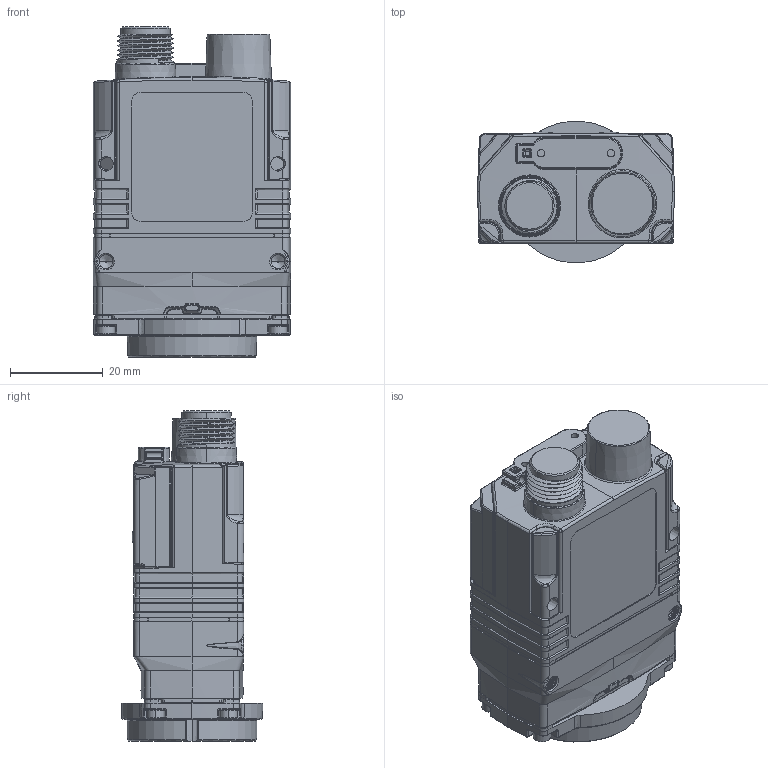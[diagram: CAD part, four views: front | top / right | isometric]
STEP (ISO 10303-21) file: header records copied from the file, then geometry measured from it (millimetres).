
FILE_DESCRIPTION (( 'STEP AP203' ), '1' );
FILE_NAME ('DM280_with_Cmount_adapter_straight.STEP', '2022-05-19T16:48:35', ( '' ), ( '' ), 'SwSTEP 2.0', 'SolidWorks 2021', '' );
FILE_SCHEMA (( 'CONFIG_CONTROL_DESIGN' ));
Length unit declared in the file: millimetre
Products named in the file (1): DM280_with_Cmount_adapter_straight
Bounding box: 42.4 x 30.4 x 71.07 mm (x, y, z)
Volume: 58079.6 mm3; surface area: 19126.4 mm2
Topology: 4 solids, 31 shells, 3314 faces, 8294 edges, 5110 vertices
Faces by surface type: plane 1048, cylinder 980, bspline 646, cone 356, torus 220, sphere 64
Entity records: 129321 total; most frequent: CARTESIAN_POINT 57550, ORIENTED_EDGE 16480, DIRECTION 13320, EDGE_CURVE 8240, VERTEX_POINT 5110, AXIS2_PLACEMENT_3D 4877, LINE 3566, VECTOR 3566
